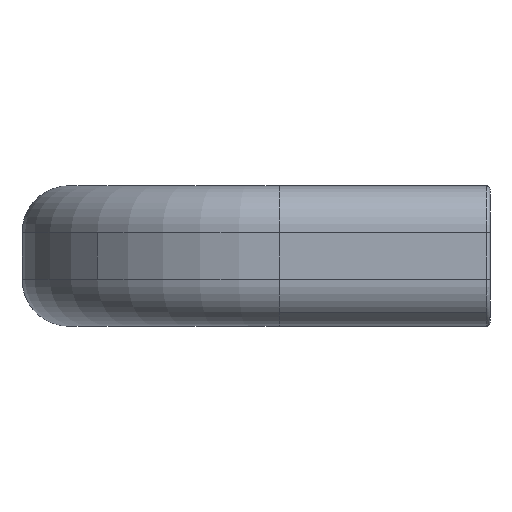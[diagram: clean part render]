
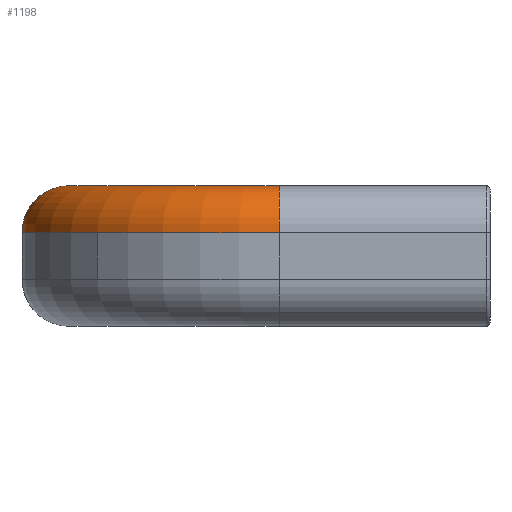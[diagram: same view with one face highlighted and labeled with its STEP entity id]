
A CAD part, left-side view. The second image highlights one B-rep face of the part: STEP entity #1198.
In plain terms, the highlighted toroidal (fillet/blend) face has major radius 18 mm and minor radius 4 mm.
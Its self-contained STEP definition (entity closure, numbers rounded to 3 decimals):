
#805=CARTESIAN_POINT('',(-57.,36.0,6.));
#806=VERTEX_POINT('',#805);
#820=CARTESIAN_POINT('',(-57.,40.,2.));
#821=VERTEX_POINT('',#820);
#828=CARTESIAN_POINT('',(-57.,36.0,2.));
#829=DIRECTION('',(1.0,0.0,0.0));
#830=DIRECTION('',(0.0,0.0,1.0));
#831=AXIS2_PLACEMENT_3D('',#828,#829,#830);
#832=CIRCLE('',#831,4.);
#833=EDGE_CURVE('',#821,#806,#832,.T.);
#843=CARTESIAN_POINT('',(-66.899,27.899,2.));
#844=VERTEX_POINT('',#843);
#853=CARTESIAN_POINT('',(-71.,18.0,2.));
#854=VERTEX_POINT('',#853);
#855=CARTESIAN_POINT('',(-57.,18.0,2.));
#856=DIRECTION('',(0.0,0.0,-1.0));
#857=DIRECTION('',(-1.0,0.0,0.0));
#858=AXIS2_PLACEMENT_3D('',#855,#856,#857);
#859=CIRCLE('',#858,14.);
#860=EDGE_CURVE('',#854,#844,#859,.T.);
#887=CARTESIAN_POINT('',(-72.556,33.556,2.));
#888=VERTEX_POINT('',#887);
#902=CARTESIAN_POINT('',(-79.0,18.0,2.));
#903=VERTEX_POINT('',#902);
#910=CARTESIAN_POINT('',(-57.,18.0,2.));
#911=DIRECTION('',(0.0,0.0,-1.0));
#912=DIRECTION('',(-1.0,0.0,0.0));
#913=AXIS2_PLACEMENT_3D('',#910,#911,#912);
#914=CIRCLE('',#913,22.);
#915=EDGE_CURVE('',#903,#888,#914,.T.);
#970=CARTESIAN_POINT('',(-75.0,18.0,6.));
#971=VERTEX_POINT('',#970);
#993=CARTESIAN_POINT('',(-75.,18.0,2.));
#994=DIRECTION('',(0.0,1.0,0.0));
#995=DIRECTION('',(0.0,0.0,1.0));
#996=AXIS2_PLACEMENT_3D('',#993,#994,#995);
#997=CIRCLE('',#996,4.);
#998=EDGE_CURVE('',#971,#854,#997,.T.);
#1043=CARTESIAN_POINT('',(-75.,18.0,2.));
#1044=DIRECTION('',(0.0,1.0,0.0));
#1045=DIRECTION('',(0.0,0.0,1.0));
#1046=AXIS2_PLACEMENT_3D('',#1043,#1044,#1045);
#1047=CIRCLE('',#1046,4.);
#1048=EDGE_CURVE('',#903,#971,#1047,.T.);
#1163=CARTESIAN_POINT('',(-57.,18.0,2.));
#1164=DIRECTION('',(0.0,0.0,-1.0));
#1165=DIRECTION('',(-1.0,0.0,0.0));
#1166=AXIS2_PLACEMENT_3D('',#1163,#1164,#1165);
#1167=TOROIDAL_SURFACE('',#1166,18.,4.);
#1168=ORIENTED_EDGE('',*,*,#1048,.T.);
#1169=ORIENTED_EDGE('',*,*,#998,.T.);
#1170=ORIENTED_EDGE('',*,*,#860,.T.);
#1171=CARTESIAN_POINT('',(-57.,32.,2.));
#1172=VERTEX_POINT('',#1171);
#1173=CARTESIAN_POINT('',(-57.,18.0,2.));
#1174=DIRECTION('',(0.0,0.0,-1.0));
#1175=DIRECTION('',(-1.0,0.0,0.0));
#1176=AXIS2_PLACEMENT_3D('',#1173,#1174,#1175);
#1177=CIRCLE('',#1176,14.);
#1178=EDGE_CURVE('',#844,#1172,#1177,.T.);
#1179=ORIENTED_EDGE('',*,*,#1178,.T.);
#1180=CARTESIAN_POINT('',(-57.,36.0,2.));
#1181=DIRECTION('',(1.0,0.0,0.0));
#1182=DIRECTION('',(0.0,0.0,1.0));
#1183=AXIS2_PLACEMENT_3D('',#1180,#1181,#1182);
#1184=CIRCLE('',#1183,4.);
#1185=EDGE_CURVE('',#806,#1172,#1184,.T.);
#1186=ORIENTED_EDGE('',*,*,#1185,.F.);
#1187=ORIENTED_EDGE('',*,*,#833,.F.);
#1188=CARTESIAN_POINT('',(-57.,18.0,2.));
#1189=DIRECTION('',(0.0,0.0,-1.0));
#1190=DIRECTION('',(-1.0,0.0,0.0));
#1191=AXIS2_PLACEMENT_3D('',#1188,#1189,#1190);
#1192=CIRCLE('',#1191,22.);
#1193=EDGE_CURVE('',#888,#821,#1192,.T.);
#1194=ORIENTED_EDGE('',*,*,#1193,.F.);
#1195=ORIENTED_EDGE('',*,*,#915,.F.);
#1196=EDGE_LOOP('',(#1168,#1169,#1170,#1179,#1186,#1187,#1194,#1195));
#1197=FACE_OUTER_BOUND('',#1196,.T.);
#1198=ADVANCED_FACE('',(#1197),#1167,.T.);
